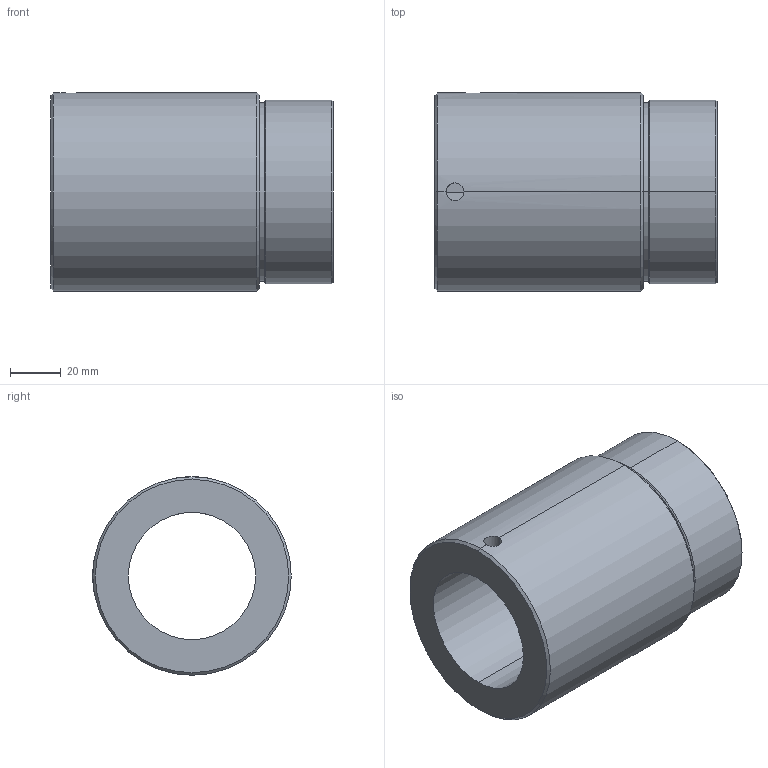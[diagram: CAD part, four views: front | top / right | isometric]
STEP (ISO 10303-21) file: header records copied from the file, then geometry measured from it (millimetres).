
FILE_DESCRIPTION (( 'STEP AP214' ), '1' );
FILE_NAME ('KGM-E-5010-RH.STEP', '2021-03-19T01:48:35', ( 'user' ), ( 'datathink' ), 'SwSTEP 2.0', 'SolidWorks 2013', '' );
FILE_SCHEMA (( 'AUTOMOTIVE_DESIGN' ));
Length unit declared in the file: millimetre
Products named in the file (1): KGM-E-5010-RH
Bounding box: 111 x 78 x 78 mm (x, y, z)
Volume: 290517.6 mm3; surface area: 50034 mm2
Topology: 1 solids, 1 shells, 25 faces, 54 edges, 32 vertices
Faces by surface type: cylinder 12, cone 8, plane 5
Entity records: 906 total; most frequent: CARTESIAN_POINT 310, DIRECTION 126, ORIENTED_EDGE 108, EDGE_CURVE 54, AXIS2_PLACEMENT_3D 52, VERTEX_POINT 32, EDGE_LOOP 30, CIRCLE 26
